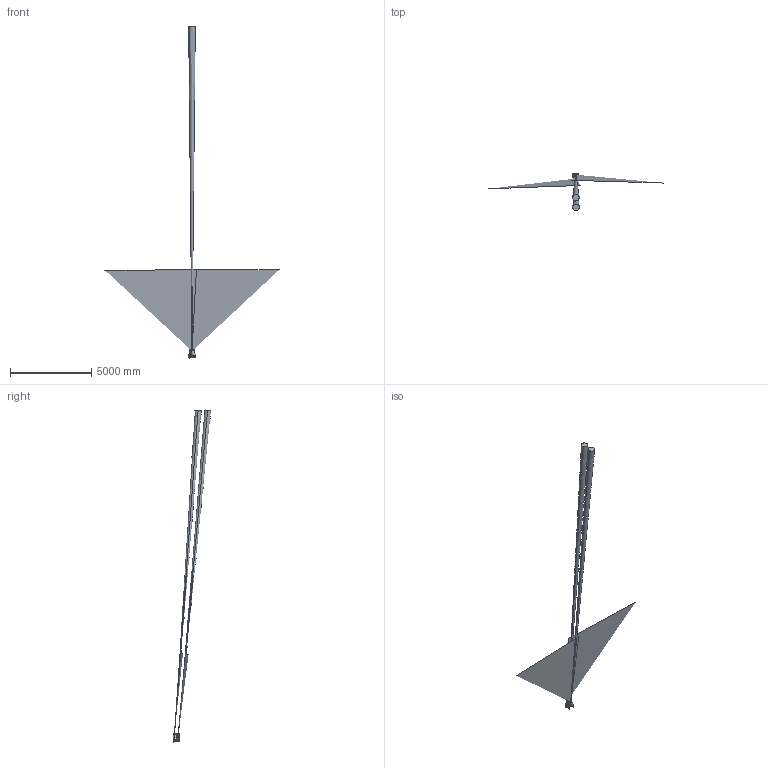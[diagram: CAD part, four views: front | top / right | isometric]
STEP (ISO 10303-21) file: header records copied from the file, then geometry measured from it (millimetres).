
FILE_DESCRIPTION (( 'STEP AP203' ), '1' );
FILE_NAME ('WIDE SWATH DUAL OPTICAL HEAD TLA.STEP', '2016-12-22T16:33:15', ( '' ), ( '' ), 'SwSTEP 2.0', 'SolidWorks 2016', '' );
FILE_SCHEMA (( 'CONFIG_CONTROL_DESIGN' ));
Length unit declared in the file: inch
Products named in the file (36): 98017A200; WIDE SWATH OPTICAL TLA_No Internals; dlsa-m; SL2 OPT OUTPUT CAP SAFETY LIGHT WINDOW; socket head cap screw_ai_HX-SHCS 0.375-16x1x1-N; WIDE SWATH OPTICAL HEAD RISER FRONT; dlsa; Anode .250-20; socket head cap screw_ai_HX-SHCS 0.375-24x1x1-N; WIDE SWATH OPTICAL HEAD RISER REAR; dowel pin_ai_DPM 0.1875x0.4375; dfcr2013m; Handle 2; WIDE SWATH OPTICAL HEAD WITH FEET; socket head cap screw_ai_HX-SHCS 0.19-32x1.75x0.875-N; 75-50cxbhm DUAL O-RING; WIDE SWATH, OPT, TUBE, 4000M_1200M 6.2"; ddc13f RA; WIDE SWATH INTERFACE PLATE 2; socket head cap screw_ai_HX-SHCS 0.19-32x0.75x0.75-N; O-Ring 2-163; WIDE SWATH, OPT, OUTPUT CAP, 4000M; ls2000; 50deg FOV; socket button head cap screw_ai_SBHCSCREW 0.112-40x0.125-HX-N; O-Ring 2-016; WIDE SWATH, OPT, END CAP, 4000M; WIDE SWATH DUAL OPTICAL HEAD TLA; Receiver FOV; socket head cap screw_ai_HX-SHCS 0.25-20x0.625x0.625-N; O-Ring 2-118; WIDE SWATH SAFETY LIGHT LENS; MOUNTING FOOT; WIDE SWATH, OPT, HOUSING, 4000M; O-Ring 2-013; WIDE SWATH OUTPUT WINDOW
Assembly tree (101 placements, depth 5):
  WIDE SWATH DUAL OPTICAL HEAD TLA
    WIDE SWATH OPTICAL HEAD WITH FEET  x2
      WIDE SWATH OPTICAL TLA_No Internals
        WIDE SWATH, OPT, HOUSING, 4000M
          WIDE SWATH, OPT, TUBE, 4000M_1200M 6.2"
          WIDE SWATH, OPT, OUTPUT CAP, 4000M
          WIDE SWATH, OPT, END CAP, 4000M
          WIDE SWATH SAFETY LIGHT LENS
          WIDE SWATH OUTPUT WINDOW
          SL2 OPT OUTPUT CAP SAFETY LIGHT WINDOW
          Anode .250-20  x2
          dfcr2013m
          75-50cxbhm DUAL O-RING  x2
          O-Ring 2-163  x4
          O-Ring 2-016  x3
          O-Ring 2-118
          O-Ring 2-013  x2
          dlsa-m  x2
          dlsa  x2
          dowel pin_ai_DPM 0.1875x0.4375  x2
          socket head cap screw_ai_HX-SHCS 0.19-32x1.75x0.875-N  x6
          socket head cap screw_ai_HX-SHCS 0.19-32x0.75x0.75-N  x6
          socket button head cap screw_ai_SBHCSCREW 0.112-40x0.125-HX-N  x3
          socket head cap screw_ai_HX-SHCS 0.25-20x0.625x0.625-N  x4
      WIDE SWATH OPTICAL HEAD RISER FRONT
      WIDE SWATH OPTICAL HEAD RISER REAR
    WIDE SWATH INTERFACE PLATE 2
    50deg FOV  x2
    Receiver FOV  x2
    MOUNTING FOOT  x2
    98017A200  x18
    socket head cap screw_ai_HX-SHCS 0.375-16x1x1-N  x10
    socket head cap screw_ai_HX-SHCS 0.375-24x1x1-N  x8
    Handle 2  x2
    ddc13f RA  x2
    ls2000  x2
Bounding box: 10700.62 x 2317.65 x 20389.57 mm (x, y, z)
Volume: 1686281523.3 mm3; surface area: 83692243.2 mm2
Topology: 137 solids, 181 shells, 6139 faces, 15409 edges, 9688 vertices
Faces by surface type: plane 2274, cylinder 1853, cone 840, bspline 802, torus 358, sphere 12
Entity records: 92391 total; most frequent: CARTESIAN_POINT 29336, ORIENTED_EDGE 11922, DIRECTION 11602, EDGE_CURVE 6059, AXIS2_PLACEMENT_3D 4306, VERTEX_POINT 3950, LINE 2990, VECTOR 2990
